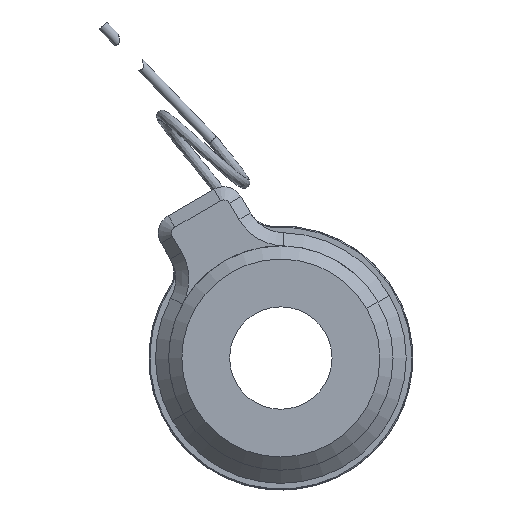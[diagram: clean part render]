
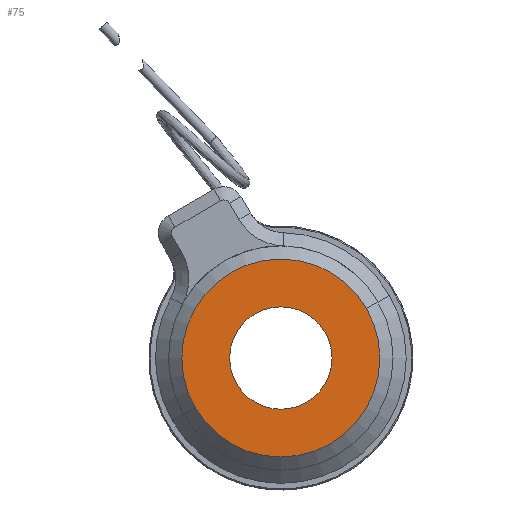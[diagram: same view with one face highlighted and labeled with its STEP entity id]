
A CAD part, front view. The second image highlights one B-rep face of the part: STEP entity #75.
In plain terms, the highlighted planar face has unit normal (0, -1, 0).
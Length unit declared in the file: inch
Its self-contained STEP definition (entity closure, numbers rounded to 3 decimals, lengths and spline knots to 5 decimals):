
#42 = DIRECTION ( 'NONE',  ( 0.866, 0., 0.5 ) ) ;
#75 = ADVANCED_FACE ( 'NONE', ( #3562, #2786 ), #1476, .F. ) ;
#125 = ORIENTED_EDGE ( 'NONE', *, *, #3555, .T. ) ;
#208 = DIRECTION ( 'NONE',  ( 0.866, 0., 0.5 ) ) ;
#242 = CIRCLE ( 'NONE', #2841, 0.485 ) ;
#300 = AXIS2_PLACEMENT_3D ( 'NONE', #2250, #514, #2543 ) ;
#317 = EDGE_CURVE ( 'NONE', #760, #2212, #1222, .T. ) ;
#334 = CARTESIAN_POINT ( 'NONE',  ( 0., -0.5, 0. ) ) ;
#355 = CARTESIAN_POINT ( 'NONE',  ( 0., -0.5, 0. ) ) ;
#463 = CARTESIAN_POINT ( 'NONE',  ( -0.42002, -0.5, -0.2425 ) ) ;
#514 = DIRECTION ( 'NONE',  ( 0., -1., 0. ) ) ;
#646 = DIRECTION ( 'NONE',  ( 0.866, 0., 0.5 ) ) ;
#698 = CIRCLE ( 'NONE', #1006, 0.485 ) ;
#760 = VERTEX_POINT ( 'NONE', #1533 ) ;
#779 = ORIENTED_EDGE ( 'NONE', *, *, #317, .T. ) ;
#1006 = AXIS2_PLACEMENT_3D ( 'NONE', #355, #2379, #646 ) ;
#1031 = CIRCLE ( 'NONE', #300, 0.9375 ) ;
#1087 = ORIENTED_EDGE ( 'NONE', *, *, #2972, .T. ) ;
#1109 = DIRECTION ( 'NONE',  ( 0., -1., 0. ) ) ;
#1222 = CIRCLE ( 'NONE', #2507, 0.9375 ) ;
#1251 = EDGE_LOOP ( 'NONE', ( #125, #779 ) ) ;
#1476 = PLANE ( 'NONE',  #1606 ) ;
#1525 = EDGE_LOOP ( 'NONE', ( #1087, #2758 ) ) ;
#1533 = CARTESIAN_POINT ( 'NONE',  ( -0.8119, -0.5, -0.46875 ) ) ;
#1606 = AXIS2_PLACEMENT_3D ( 'NONE', #334, #2073, #42 ) ;
#1637 = CARTESIAN_POINT ( 'NONE',  ( 0.8119, -0.5, 0.46875 ) ) ;
#1809 = EDGE_CURVE ( 'NONE', #3153, #2040, #698, .T. ) ;
#1947 = DIRECTION ( 'NONE',  ( 0., 1., 0. ) ) ;
#2040 = VERTEX_POINT ( 'NONE', #463 ) ;
#2073 = DIRECTION ( 'NONE',  ( 0., 1., 0. ) ) ;
#2212 = VERTEX_POINT ( 'NONE', #1637 ) ;
#2250 = CARTESIAN_POINT ( 'NONE',  ( 0., -0.5, 0. ) ) ;
#2379 = DIRECTION ( 'NONE',  ( 0., 1., 0. ) ) ;
#2507 = AXIS2_PLACEMENT_3D ( 'NONE', #3130, #1109, #2832 ) ;
#2543 = DIRECTION ( 'NONE',  ( 0.866, 0., 0.5 ) ) ;
#2588 = CARTESIAN_POINT ( 'NONE',  ( 0.42002, -0.5, 0.2425 ) ) ;
#2758 = ORIENTED_EDGE ( 'NONE', *, *, #1809, .T. ) ;
#2786 = FACE_OUTER_BOUND ( 'NONE', #1251, .T. ) ;
#2832 = DIRECTION ( 'NONE',  ( 0.866, 0., 0.5 ) ) ;
#2841 = AXIS2_PLACEMENT_3D ( 'NONE', #3683, #1947, #208 ) ;
#2972 = EDGE_CURVE ( 'NONE', #2040, #3153, #242, .T. ) ;
#3130 = CARTESIAN_POINT ( 'NONE',  ( 0., -0.5, 0. ) ) ;
#3153 = VERTEX_POINT ( 'NONE', #2588 ) ;
#3555 = EDGE_CURVE ( 'NONE', #2212, #760, #1031, .T. ) ;
#3562 = FACE_BOUND ( 'NONE', #1525, .T. ) ;
#3683 = CARTESIAN_POINT ( 'NONE',  ( 0., -0.5, 0. ) ) ;
